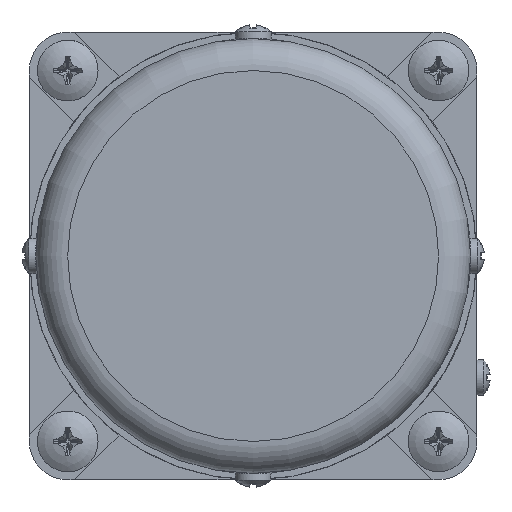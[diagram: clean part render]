
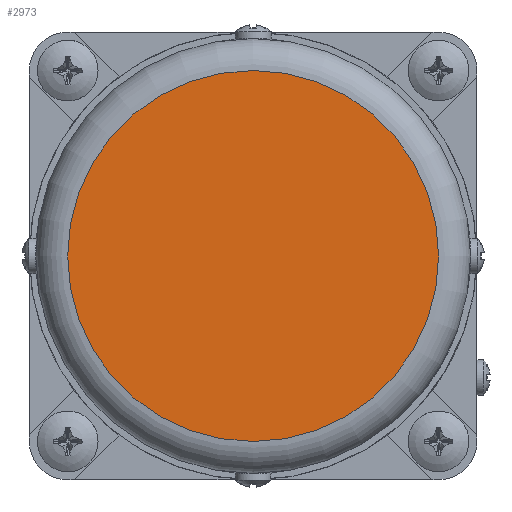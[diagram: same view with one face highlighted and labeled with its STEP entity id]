
A CAD part, left-side view. The second image highlights one B-rep face of the part: STEP entity #2973.
In plain terms, the highlighted planar face has unit normal (-1, 0, 0).
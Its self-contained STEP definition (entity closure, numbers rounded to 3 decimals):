
#1420=FACE_OUTER_BOUND('',#3905,.T.);
#2541=PLANE('',#8638);
#2973=ADVANCED_FACE('',(#1420),#2541,.T.);
#3905=EDGE_LOOP('',(#5517));
#5517=ORIENTED_EDGE('',*,*,#7326,.T.);
#6434=VERTEX_POINT('',#13948);
#7326=EDGE_CURVE('',#6434,#6434,#7803,.T.);
#7803=CIRCLE('',#8637,29.);
#8637=AXIS2_PLACEMENT_3D('',#13947,#10065,#10066);
#8638=AXIS2_PLACEMENT_3D('',#13949,#10067,#10068);
#10065=DIRECTION('',(-1.,0.,0.));
#10066=DIRECTION('',(0.,0.,-1.));
#10067=DIRECTION('',(-1.,0.,0.));
#10068=DIRECTION('',(0.,0.,-1.));
#13947=CARTESIAN_POINT('',(-146.,0.,0.));
#13948=CARTESIAN_POINT('',(-146.,0.,-29.));
#13949=CARTESIAN_POINT('',(-146.,0.,0.));
